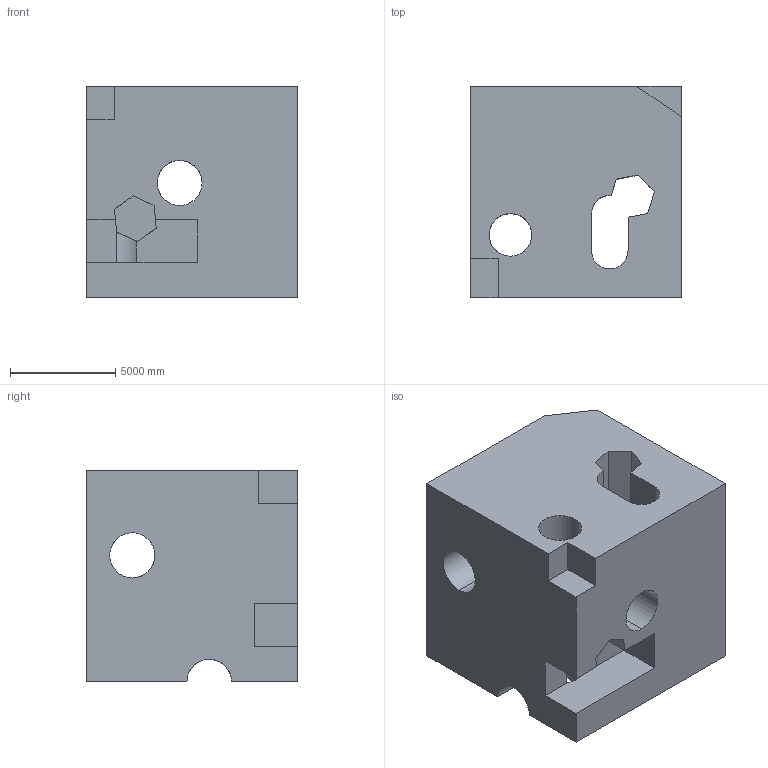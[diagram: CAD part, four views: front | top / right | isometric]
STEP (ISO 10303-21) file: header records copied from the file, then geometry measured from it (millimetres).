
FILE_DESCRIPTION (( 'STEP AP203' ), '1' );
FILE_NAME ('1964.STEP', '2022-08-23T10:02:25', ( 'user' ), ( '' ), 'SwSTEP 2.0', 'SolidWorks 2021', '' );
FILE_SCHEMA (( 'CONFIG_CONTROL_DESIGN' ));
Length unit declared in the file: centimetre
Products named in the file (1): 1964
Bounding box: 10000 x 10000 x 10000 mm (x, y, z)
Volume: 774254980193.6 mm3; surface area: 886076382.6 mm2
Topology: 1 solids, 1 shells, 46 faces, 150 edges, 100 vertices
Faces by surface type: plane 36, cylinder 10
Entity records: 2449 total; most frequent: CARTESIAN_POINT 1067, ORIENTED_EDGE 300, DIRECTION 244, EDGE_CURVE 150, LINE 108, VECTOR 108, VERTEX_POINT 100, AXIS2_PLACEMENT_3D 68
